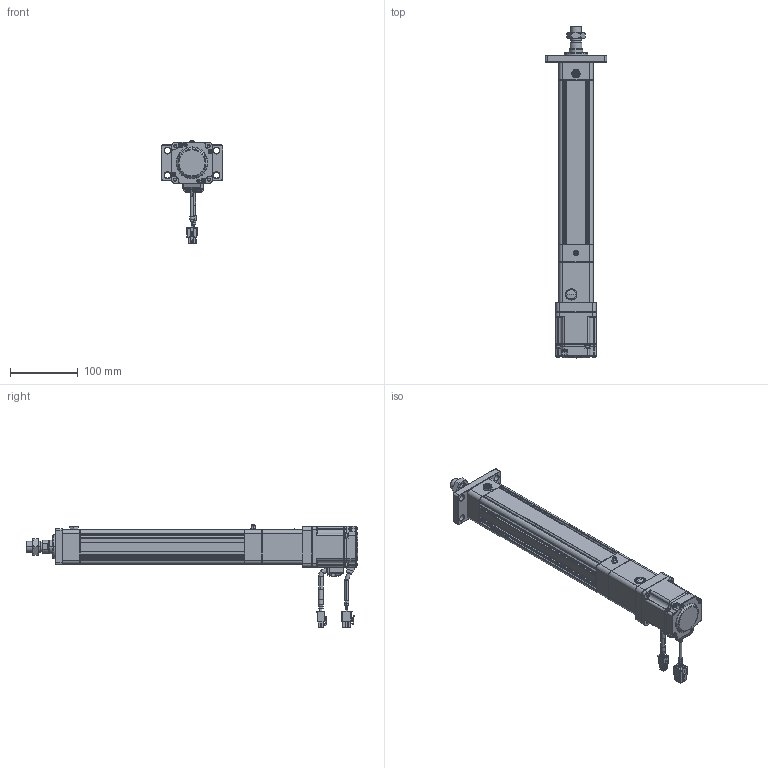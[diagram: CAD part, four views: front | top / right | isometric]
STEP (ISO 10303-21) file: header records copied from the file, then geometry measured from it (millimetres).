
FILE_DESCRIPTION((''),'2;1');
FILE_NAME('HE40-D-100_ASM','2020-04-17T',('ASUS20200'),(''),'CREO PARAMETRIC BY PTC INC, 2014190','CREO PARAMETRIC BY PTC INC, 2014190','');
FILE_SCHEMA(('CONFIG_CONTROL_DESIGN'));
Length unit declared in the file: millimetre
Products named in the file (27): HE40-D-P-001-X1; HE40-D-P-002-X1; HE40-D-P-003-X1; 6200ZZ; HE40-D-009-X1; HE40-D-010-X1; _MHMF022L1A2; _CABLE_MOTOR_BOTTOM_03; _CABLE_MOTOR_TOP_03; _MOTOR_CONNECTOR_2; _CABLE_BRAKE_BOTTOM_03; _CABLE_BRAKE_TOP_03; _MHMF_CONNECTOR_9_PIN_A6; MHMF022L1A2M2_1_ASM; MHMF022L1A2M2_ASM; SLM-01; YZ-M6X1; JDB202820; SKT-13; JX5X5X20; HE40-D-P-005-X1; HE40-D-P-004-X1; HE40-D-P-008-X1; LGLM-M6-22; F-SI40FA; M6X16; HE40-D-100_ASM
Assembly tree (32 placements, depth 4):
  HE40-D-100_ASM
    HE40-D-P-001-X1
    HE40-D-P-002-X1
    HE40-D-P-003-X1
    6200ZZ
    HE40-D-009-X1
    HE40-D-010-X1
    MHMF022L1A2M2_ASM
      MHMF022L1A2M2_1_ASM
        _MHMF022L1A2
        _CABLE_MOTOR_BOTTOM_03
        _CABLE_MOTOR_TOP_03
        _MOTOR_CONNECTOR_2
        _CABLE_BRAKE_BOTTOM_03
        _CABLE_BRAKE_TOP_03
        _MHMF_CONNECTOR_9_PIN_A6
    SLM-01
    YZ-M6X1
    JDB202820
    SKT-13
    JX5X5X20
    HE40-D-P-005-X1
    HE40-D-P-004-X1
    HE40-D-P-008-X1
    LGLM-M6-22  x4
    F-SI40FA
    M6X16  x4
Bounding box: 90 x 488.5 x 152.7 mm (x, y, z)
Volume: 782456.4 mm3; surface area: 287619.7 mm2
Topology: 30 solids, 55 shells, 2428 faces, 5875 edges, 3635 vertices
Faces by surface type: plane 993, cylinder 727, cone 566, torus 102, sphere 36, bspline 4
Entity records: 68171 total; most frequent: CARTESIAN_POINT 12791, DIRECTION 12184, ORIENTED_EDGE 10906, EDGE_CURVE 5497, AXIS2_PLACEMENT_3D 4558, VERTEX_POINT 3428, VECTOR 3068, LINE 3068
